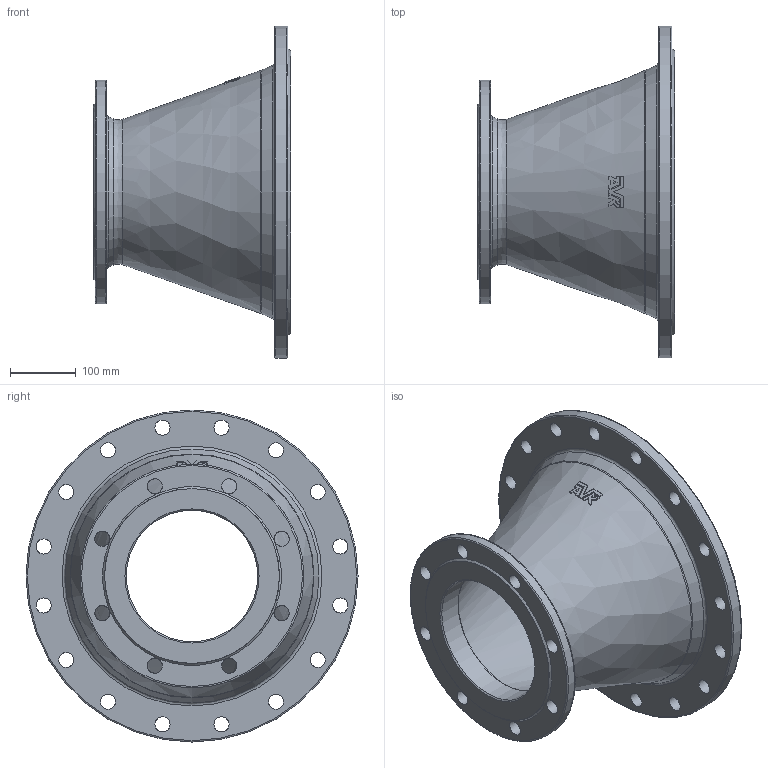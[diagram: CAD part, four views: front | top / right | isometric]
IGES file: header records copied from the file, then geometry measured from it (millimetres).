
Start section: SolidWorks IGES file using analytic representation for surfaces
Global section: file name: \\avksan2\techshare\PBM outline export from Enovia\O_712_2210_DN350_DN200_0X_REV01.igs; native system: SolidWorks 2022; preprocessor: SolidWorks 2022; author: pbm; date: 240808.081232; units: millimetre
Bounding box: 300 x 505 x 505 mm (x, y, z)
Surface area: 877725.2 mm2 (no closed solid volume)
Topology: 0 solids, 0 shells, 93 faces, 496 edges, 426 vertices
Faces by surface type: revolution 52, bspline 41
